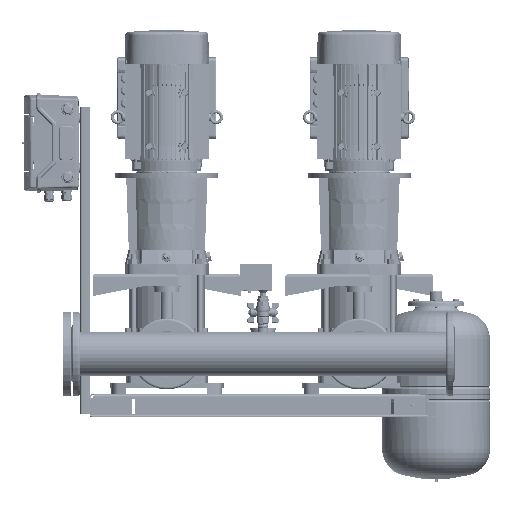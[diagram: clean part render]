
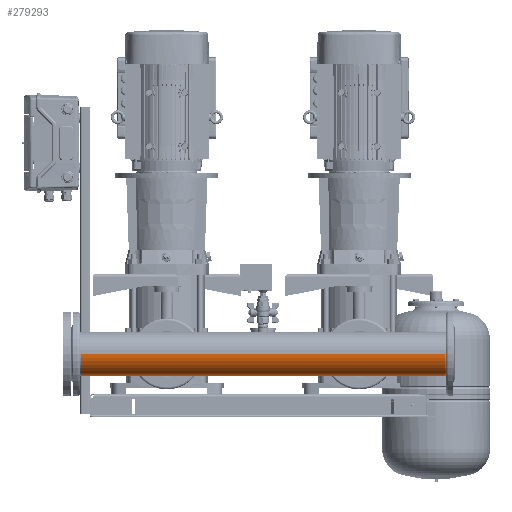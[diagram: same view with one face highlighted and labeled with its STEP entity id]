
A CAD part, front view. The second image highlights one B-rep face of the part: STEP entity #279293.
In plain terms, the highlighted cylindrical face has radius 57.15 mm (diameter 114.3 mm), a partial arc.
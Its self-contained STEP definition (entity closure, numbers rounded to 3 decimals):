
#278843=CARTESIAN_POINT('Vertex',(57.15,13.45,0.)) ;
#278850=CARTESIAN_POINT('Vertex',(57.15,-13.45,0.)) ;
#278854=CARTESIAN_POINT('Control Point',(57.15,13.45,0.)) ;
#278855=CARTESIAN_POINT('Control Point',(57.15,13.45,-2.446)) ;
#278856=CARTESIAN_POINT('Control Point',(57.019,12.894,-4.892)) ;
#278857=CARTESIAN_POINT('Control Point',(56.756,11.782,-7.156)) ;
#278858=CARTESIAN_POINT('Control Point',(56.174,8.85,-10.757)) ;
#278859=CARTESIAN_POINT('Control Point',(55.693,4.727,-12.861)) ;
#278860=CARTESIAN_POINT('Control Point',(55.543,2.632,-13.45)) ;
#278861=CARTESIAN_POINT('Control Point',(55.468,-1.848,-13.777)) ;
#278862=CARTESIAN_POINT('Control Point',(55.815,-6.098,-12.318)) ;
#278863=CARTESIAN_POINT('Control Point',(56.091,-8.093,-11.104)) ;
#278864=CARTESIAN_POINT('Control Point',(56.593,-10.975,-8.378)) ;
#278865=CARTESIAN_POINT('Control Point',(56.975,-12.708,-4.84)) ;
#278866=CARTESIAN_POINT('Control Point',(57.092,-13.203,-3.262)) ;
#278867=CARTESIAN_POINT('Control Point',(57.15,-13.45,-1.631)) ;
#278868=CARTESIAN_POINT('Control Point',(57.15,-13.45,0.)) ;
#279082=CARTESIAN_POINT('Axis2P3D Location',(0.,0.,0.)) ;
#279087=CARTESIAN_POINT('Line Origine',(57.15,0.,0.)) ;
#279091=CARTESIAN_POINT('Vertex',(57.15,211.95,0.)) ;
#279122=CARTESIAN_POINT('Vertex',(57.15,288.05,0.)) ;
#279125=CARTESIAN_POINT('Line Origine',(57.15,0.,0.)) ;
#279129=CARTESIAN_POINT('Vertex',(57.15,472.,0.)) ;
#279136=CARTESIAN_POINT('Vertex',(-57.15,472.,0.)) ;
#279139=CARTESIAN_POINT('Line Origine',(-57.15,0.,0.)) ;
#279143=CARTESIAN_POINT('Vertex',(-57.15,-472.,0.)) ;
#279150=CARTESIAN_POINT('Vertex',(57.15,-472.,0.)) ;
#279153=CARTESIAN_POINT('Line Origine',(57.15,0.,0.)) ;
#279157=CARTESIAN_POINT('Vertex',(57.15,-288.05,0.)) ;
#279188=CARTESIAN_POINT('Vertex',(57.15,-211.95,0.)) ;
#279191=CARTESIAN_POINT('Line Origine',(57.15,0.,0.)) ;
#279214=CARTESIAN_POINT('Control Point',(57.15,-211.95,0.)) ;
#279215=CARTESIAN_POINT('Control Point',(57.15,-211.95,-2.313)) ;
#279216=CARTESIAN_POINT('Control Point',(57.033,-212.126,-4.626)) ;
#279217=CARTESIAN_POINT('Control Point',(56.799,-212.477,-6.912)) ;
#279218=CARTESIAN_POINT('Control Point',(55.885,-213.863,-12.88)) ;
#279219=CARTESIAN_POINT('Control Point',(54.291,-216.361,-18.363)) ;
#279220=CARTESIAN_POINT('Control Point',(53.091,-218.304,-21.521)) ;
#279221=CARTESIAN_POINT('Control Point',(50.524,-222.695,-27.076)) ;
#279222=CARTESIAN_POINT('Control Point',(47.809,-228.185,-31.45)) ;
#279223=CARTESIAN_POINT('Control Point',(46.527,-231.074,-33.277)) ;
#279224=CARTESIAN_POINT('Control Point',(44.374,-236.859,-36.08)) ;
#279225=CARTESIAN_POINT('Control Point',(43.013,-243.298,-37.643)) ;
#279226=CARTESIAN_POINT('Control Point',(42.622,-246.381,-38.07)) ;
#279227=CARTESIAN_POINT('Control Point',(42.44,-252.817,-38.28)) ;
#279228=CARTESIAN_POINT('Control Point',(43.427,-259.091,-37.164)) ;
#279229=CARTESIAN_POINT('Control Point',(44.213,-262.186,-36.254)) ;
#279230=CARTESIAN_POINT('Control Point',(45.814,-267.082,-34.254)) ;
#279231=CARTESIAN_POINT('Control Point',(47.705,-271.473,-31.514)) ;
#279232=CARTESIAN_POINT('Control Point',(48.492,-273.154,-30.3)) ;
#279233=CARTESIAN_POINT('Control Point',(50.792,-277.767,-26.468)) ;
#279234=CARTESIAN_POINT('Control Point',(53.018,-281.588,-21.762)) ;
#279235=CARTESIAN_POINT('Control Point',(54.336,-283.716,-18.329)) ;
#279236=CARTESIAN_POINT('Control Point',(55.96,-286.252,-12.64)) ;
#279237=CARTESIAN_POINT('Control Point',(56.843,-287.589,-6.463)) ;
#279238=CARTESIAN_POINT('Control Point',(57.048,-287.896,-4.323)) ;
#279239=CARTESIAN_POINT('Control Point',(57.15,-288.05,-2.162)) ;
#279240=CARTESIAN_POINT('Control Point',(57.15,-288.05,0.)) ;
#279242=CARTESIAN_POINT('Axis2P3D Location',(0.,-472.,0.)) ;
#279247=CARTESIAN_POINT('Axis2P3D Location',(0.,472.,0.)) ;
#279253=CARTESIAN_POINT('Control Point',(57.15,288.05,0.)) ;
#279254=CARTESIAN_POINT('Control Point',(57.15,288.05,-2.313)) ;
#279255=CARTESIAN_POINT('Control Point',(57.033,287.874,-4.626)) ;
#279256=CARTESIAN_POINT('Control Point',(56.799,287.523,-6.912)) ;
#279257=CARTESIAN_POINT('Control Point',(55.885,286.137,-12.88)) ;
#279258=CARTESIAN_POINT('Control Point',(54.291,283.639,-18.363)) ;
#279259=CARTESIAN_POINT('Control Point',(53.091,281.696,-21.521)) ;
#279260=CARTESIAN_POINT('Control Point',(50.524,277.305,-27.076)) ;
#279261=CARTESIAN_POINT('Control Point',(47.809,271.815,-31.45)) ;
#279262=CARTESIAN_POINT('Control Point',(46.527,268.926,-33.277)) ;
#279263=CARTESIAN_POINT('Control Point',(44.374,263.141,-36.08)) ;
#279264=CARTESIAN_POINT('Control Point',(43.013,256.702,-37.643)) ;
#279265=CARTESIAN_POINT('Control Point',(42.622,253.619,-38.07)) ;
#279266=CARTESIAN_POINT('Control Point',(42.44,247.183,-38.28)) ;
#279267=CARTESIAN_POINT('Control Point',(43.427,240.909,-37.164)) ;
#279268=CARTESIAN_POINT('Control Point',(44.213,237.814,-36.254)) ;
#279269=CARTESIAN_POINT('Control Point',(45.814,232.918,-34.254)) ;
#279270=CARTESIAN_POINT('Control Point',(47.705,228.527,-31.514)) ;
#279271=CARTESIAN_POINT('Control Point',(48.492,226.846,-30.3)) ;
#279272=CARTESIAN_POINT('Control Point',(50.792,222.233,-26.468)) ;
#279273=CARTESIAN_POINT('Control Point',(53.018,218.412,-21.762)) ;
#279274=CARTESIAN_POINT('Control Point',(54.336,216.284,-18.329)) ;
#279275=CARTESIAN_POINT('Control Point',(55.96,213.748,-12.64)) ;
#279276=CARTESIAN_POINT('Control Point',(56.843,212.411,-6.463)) ;
#279277=CARTESIAN_POINT('Control Point',(57.048,212.104,-4.323)) ;
#279278=CARTESIAN_POINT('Control Point',(57.15,211.95,-2.162)) ;
#279279=CARTESIAN_POINT('Control Point',(57.15,211.95,0.)) ;
#279089=VECTOR('Line Direction',#279088,1.) ;
#279127=VECTOR('Line Direction',#279126,1.) ;
#279141=VECTOR('Line Direction',#279140,1.) ;
#279155=VECTOR('Line Direction',#279154,1.) ;
#279193=VECTOR('Line Direction',#279192,1.) ;
#279083=DIRECTION('Axis2P3D Direction',(0.,1.,-0.)) ;
#279084=DIRECTION('Axis2P3D XDirection',(-1.,0.,0.)) ;
#279088=DIRECTION('Vector Direction',(0.,1.,0.)) ;
#279126=DIRECTION('Vector Direction',(0.,1.,0.)) ;
#279140=DIRECTION('Vector Direction',(0.,1.,0.)) ;
#279154=DIRECTION('Vector Direction',(0.,1.,0.)) ;
#279192=DIRECTION('Vector Direction',(0.,1.,0.)) ;
#279243=DIRECTION('Axis2P3D Direction',(0.,1.,-0.)) ;
#279248=DIRECTION('Axis2P3D Direction',(0.,1.,-0.)) ;
#279085=AXIS2_PLACEMENT_3D('Cylinder Axis2P3D',#279082,#279083,#279084) ;
#279244=AXIS2_PLACEMENT_3D('Circle Axis2P3D',#279242,#279243,$) ;
#279249=AXIS2_PLACEMENT_3D('Circle Axis2P3D',#279247,#279248,$) ;
#279090=LINE('Line',#279087,#279089) ;
#279128=LINE('Line',#279125,#279127) ;
#279142=LINE('Line',#279139,#279141) ;
#279156=LINE('Line',#279153,#279155) ;
#279194=LINE('Line',#279191,#279193) ;
#279245=CIRCLE('generated circle',#279244,57.15) ;
#279250=CIRCLE('generated circle',#279249,57.15) ;
#279086=CYLINDRICAL_SURFACE('generated cylinder',#279085,57.15) ;
#278869=EDGE_CURVE('',#278844,#278851,#278853,.T.) ;
#279093=EDGE_CURVE('',#278844,#279092,#279090,.T.) ;
#279131=EDGE_CURVE('',#279123,#279130,#279128,.T.) ;
#279145=EDGE_CURVE('',#279144,#279137,#279142,.T.) ;
#279159=EDGE_CURVE('',#279151,#279158,#279156,.T.) ;
#279195=EDGE_CURVE('',#279189,#278851,#279194,.T.) ;
#279241=EDGE_CURVE('',#279189,#279158,#279213,.T.) ;
#279246=EDGE_CURVE('',#279151,#279144,#279245,.T.) ;
#279251=EDGE_CURVE('',#279130,#279137,#279250,.T.) ;
#279280=EDGE_CURVE('',#279123,#279092,#279252,.T.) ;
#279282=ORIENTED_EDGE('',*,*,#279195,.F.) ;
#279283=ORIENTED_EDGE('',*,*,#279241,.T.) ;
#279284=ORIENTED_EDGE('',*,*,#279159,.F.) ;
#279285=ORIENTED_EDGE('',*,*,#279246,.T.) ;
#279286=ORIENTED_EDGE('',*,*,#279145,.T.) ;
#279287=ORIENTED_EDGE('',*,*,#279251,.F.) ;
#279288=ORIENTED_EDGE('',*,*,#279131,.F.) ;
#279289=ORIENTED_EDGE('',*,*,#279280,.T.) ;
#279290=ORIENTED_EDGE('',*,*,#279093,.F.) ;
#279291=ORIENTED_EDGE('',*,*,#278869,.T.) ;
#279281=EDGE_LOOP('',(#279282,#279283,#279284,#279285,#279286,#279287,#279288,#279289,#279290,#279291)) ;
#278844=VERTEX_POINT('',#278843) ;
#278851=VERTEX_POINT('',#278850) ;
#279092=VERTEX_POINT('',#279091) ;
#279123=VERTEX_POINT('',#279122) ;
#279130=VERTEX_POINT('',#279129) ;
#279137=VERTEX_POINT('',#279136) ;
#279144=VERTEX_POINT('',#279143) ;
#279151=VERTEX_POINT('',#279150) ;
#279158=VERTEX_POINT('',#279157) ;
#279189=VERTEX_POINT('',#279188) ;
#279293=ADVANCED_FACE('PartBody',(#279292),#279086,.T.) ;
#278853=B_SPLINE_CURVE_WITH_KNOTS('',5,(#278854,#278855,#278856,#278857,#278858,#278859,#278860,#278861,#278862,#278863,#278864,#278865,#278866,#278867,#278868),.UNSPECIFIED.,.F.,.U.,(6,3,3,3,6),(0.,17.297,32.296,48.434,59.968),.UNSPECIFIED.) ;
#279213=B_SPLINE_CURVE_WITH_KNOTS('',5,(#279214,#279215,#279216,#279217,#279218,#279219,#279220,#279221,#279222,#279223,#279224,#279225,#279226,#279227,#279228,#279229,#279230,#279231,#279232,#279233,#279234,#279235,#279236,#279237,#279238,#279239,#279240),.UNSPECIFIED.,.F.,.U.,(6,3,3,3,3,3,3,3,6),(0.,16.355,43.643,69.282,91.185,114.422,130.056,159.751,175.037),.UNSPECIFIED.) ;
#279252=B_SPLINE_CURVE_WITH_KNOTS('',5,(#279253,#279254,#279255,#279256,#279257,#279258,#279259,#279260,#279261,#279262,#279263,#279264,#279265,#279266,#279267,#279268,#279269,#279270,#279271,#279272,#279273,#279274,#279275,#279276,#279277,#279278,#279279),.UNSPECIFIED.,.F.,.U.,(6,3,3,3,3,3,3,3,6),(0.,16.355,43.643,69.282,91.185,114.422,130.056,159.751,175.037),.UNSPECIFIED.) ;
#279292=FACE_OUTER_BOUND('',#279281,.T.) ;
